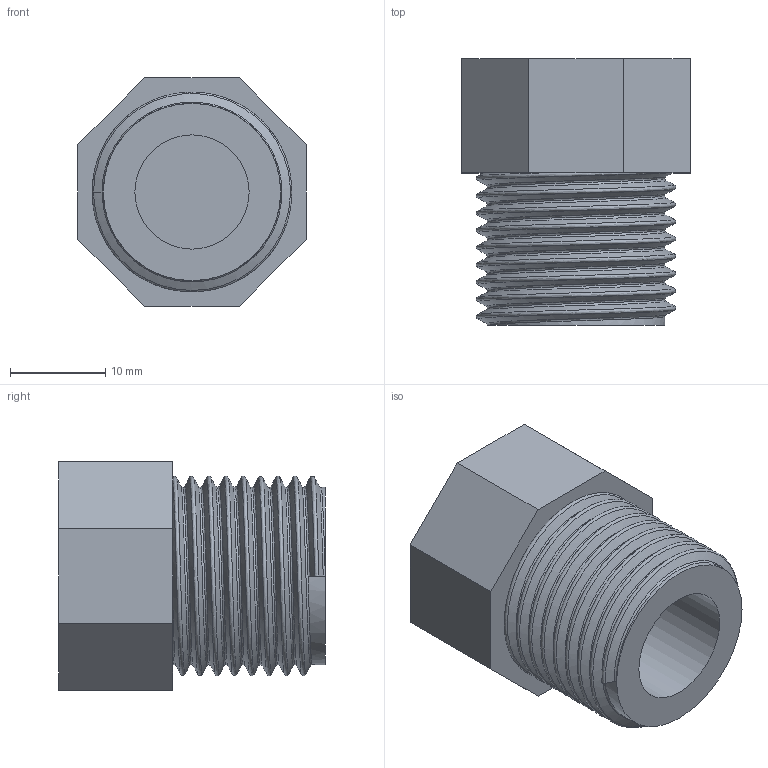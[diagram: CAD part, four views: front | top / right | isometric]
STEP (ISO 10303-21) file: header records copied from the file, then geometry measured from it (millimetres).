
FILE_DESCRIPTION(/* description */ ('PVC tappo filettato BSP maschio'),/* implementation_level */ '2;1');
FILE_NAME(/* name */ 'C:\Users\POLYPIPE\Desktop\DATASET INVENTOR\LIBRERIA EFFAST\RACCORDI 3DxWEB\RER\3D_RERTAE\3D_RERTAE020B.stp',/* time_stamp */ '2018-01-19T17:17:20+01:00',/* author */ ('POLYPIPE'),/* organization */ ('Polypipe Italia s.r.l.'),/* preprocessor_version */ 'ST-DEVELOPER v16.1',/* originating_system */ 'Autodesk Inventor 2016',/* authorisation */ '');
FILE_SCHEMA (('CONFIG_CONTROL_DESIGN'));
Length unit declared in the file: millimetre
Products named in the file (1): 3D_RERTAE
Bounding box: 24 x 28 x 24 mm (x, y, z)
Volume: 8817.2 mm3; surface area: 4136.4 mm2
Topology: 1 solids, 1 shells, 20 faces, 45 edges, 29 vertices
Faces by surface type: plane 13, bspline 5, cylinder 2
Full cylindrical faces by diameter (mm): 12 x1, 18.631 x1
Entity records: 3954 total; most frequent: CARTESIAN_POINT 3515, ORIENTED_EDGE 88, DIRECTION 71, EDGE_CURVE 44, VERTEX_POINT 29, LINE 27, VECTOR 27, EDGE_LOOP 23
